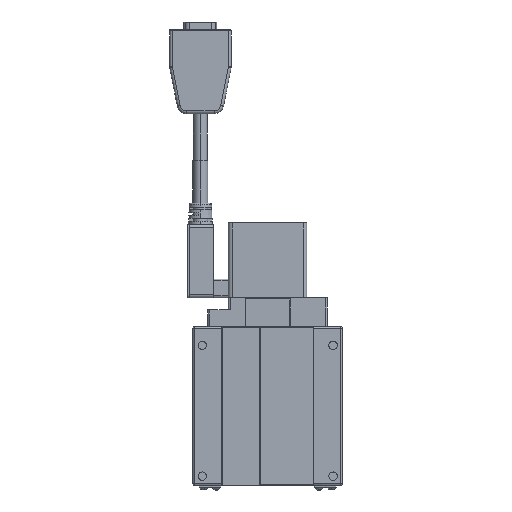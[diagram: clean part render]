
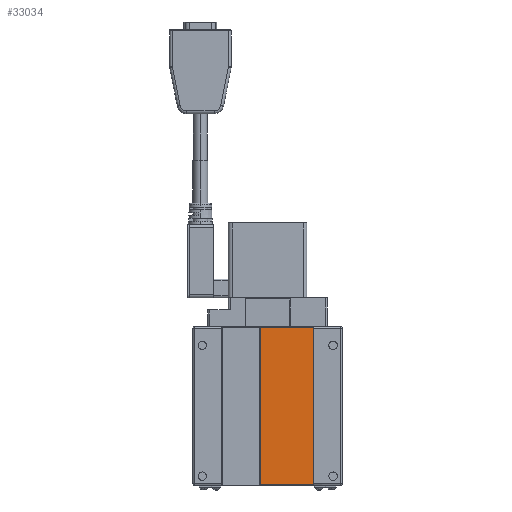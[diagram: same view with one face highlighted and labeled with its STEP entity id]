
A CAD part, front view. The second image highlights one B-rep face of the part: STEP entity #33034.
In plain terms, the highlighted planar face has unit normal (0, -1, 0).
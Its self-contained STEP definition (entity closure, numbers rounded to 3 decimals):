
#1812 = LINE ( 'NONE', #41000, #4606 ) ;
#1916 = CARTESIAN_POINT ( 'NONE',  ( 24.5, 0.3, 85. ) ) ;
#3466 = VERTEX_POINT ( 'NONE', #66913 ) ;
#4606 = VECTOR ( 'NONE', #21865, 1000. ) ;
#5607 = CARTESIAN_POINT ( 'NONE',  ( -4.1, 0.3, 0.286 ) ) ;
#6049 = DIRECTION ( 'NONE',  ( 1., 0., 0. ) ) ;
#8600 = VECTOR ( 'NONE', #21543, 1000. ) ;
#9897 = EDGE_CURVE ( 'NONE', #3466, #16065, #74172, .T. ) ;
#15005 = CARTESIAN_POINT ( 'NONE',  ( -4.1, 0.3, 0. ) ) ;
#15409 = DIRECTION ( 'NONE',  ( 0., 0., -1. ) ) ;
#15659 = CARTESIAN_POINT ( 'NONE',  ( 24.5, 0.3, 0.286 ) ) ;
#16065 = VERTEX_POINT ( 'NONE', #64380 ) ;
#18631 = ORIENTED_EDGE ( 'NONE', *, *, #31589, .T. ) ;
#21543 = DIRECTION ( 'NONE',  ( 0., 0., 1. ) ) ;
#21865 = DIRECTION ( 'NONE',  ( -1., 0., 0. ) ) ;
#24051 = ORIENTED_EDGE ( 'NONE', *, *, #79054, .F. ) ;
#27046 = AXIS2_PLACEMENT_3D ( 'NONE', #1916, #74581, #54989 ) ;
#29825 = VECTOR ( 'NONE', #15409, 1000. ) ;
#30725 = ORIENTED_EDGE ( 'NONE', *, *, #83867, .T. ) ;
#31589 = EDGE_CURVE ( 'NONE', #38685, #16065, #1812, .T. ) ;
#33034 = ADVANCED_FACE ( 'NONE', ( #48908 ), #48478, .F. ) ;
#38685 = VERTEX_POINT ( 'NONE', #54080 ) ;
#41000 = CARTESIAN_POINT ( 'NONE',  ( 24.5, 0.3, 84.714 ) ) ;
#46063 = VECTOR ( 'NONE', #6049, 1000. ) ;
#48462 = LINE ( 'NONE', #74986, #29825 ) ;
#48478 = PLANE ( 'NONE',  #27046 ) ;
#48908 = FACE_OUTER_BOUND ( 'NONE', #63779, .T. ) ;
#54080 = CARTESIAN_POINT ( 'NONE',  ( 24.5, 0.3, 84.714 ) ) ;
#54989 = DIRECTION ( 'NONE',  ( 0., 0., 1. ) ) ;
#57084 = VERTEX_POINT ( 'NONE', #15659 ) ;
#63779 = EDGE_LOOP ( 'NONE', ( #72381, #30725, #24051, #18631 ) ) ;
#64380 = CARTESIAN_POINT ( 'NONE',  ( -4.1, 0.3, 84.714 ) ) ;
#65169 = LINE ( 'NONE', #5607, #46063 ) ;
#66913 = CARTESIAN_POINT ( 'NONE',  ( -4.1, 0.3, 0.286 ) ) ;
#72381 = ORIENTED_EDGE ( 'NONE', *, *, #9897, .F. ) ;
#74172 = LINE ( 'NONE', #15005, #8600 ) ;
#74581 = DIRECTION ( 'NONE',  ( 0., 1., 0. ) ) ;
#74986 = CARTESIAN_POINT ( 'NONE',  ( 24.5, 0.3, 85. ) ) ;
#79054 = EDGE_CURVE ( 'NONE', #38685, #57084, #48462, .T. ) ;
#83867 = EDGE_CURVE ( 'NONE', #3466, #57084, #65169, .T. ) ;
